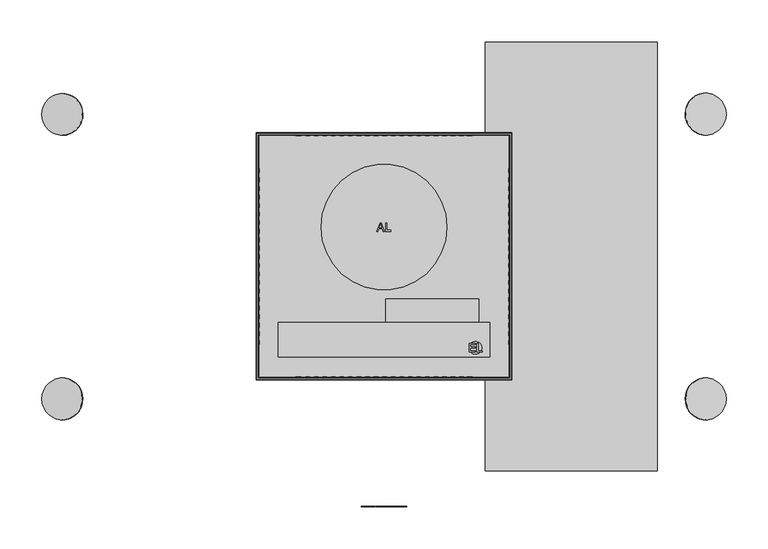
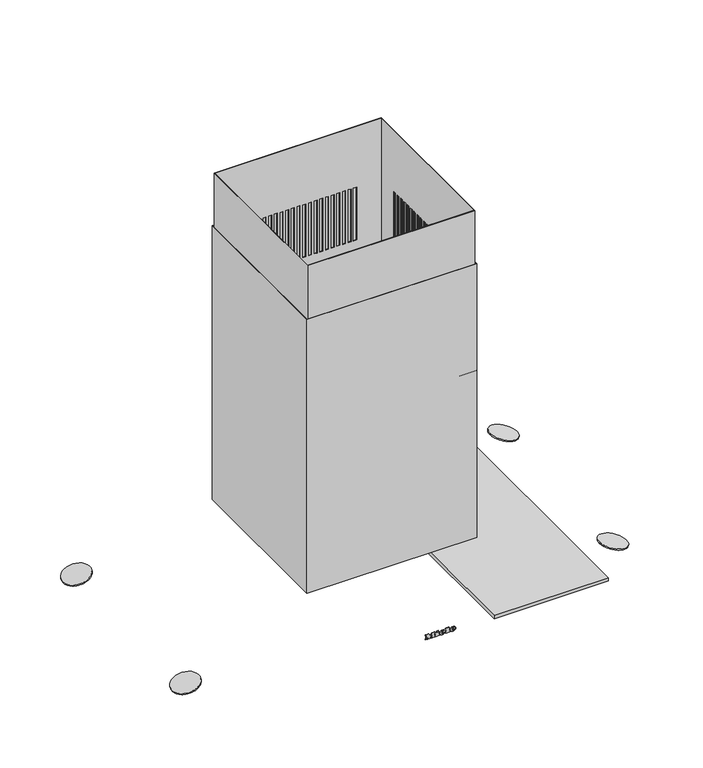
"""IFC4 building model written with IfcOpenShell, lengths in millimetres: proxy geometry, 10861910_F_DA6698D_EDST : 28669855_F_10861910_DA6698D_EDST."""

from ifc_helpers import new_model, si_unit, point, frame, frame_2d, origin, place, context, project, spatial, polyline, circle_curve, ellipse_curve, trimmed, segment, composite_curve, outline, extrude, faceted_brep, source, transform, mapped, element, save
from ifc_brep_helpers import plane_surface, cylinder_surface, revolved_surface, extruded_surface, advanced_brep


def specialty_equipment_54c93880(model_context):
    return source(origin(), model_context, "Body", "SolidModel", [
        advanced_brep(
        [(21.38, -299.0, 47.133), (21.38, -299.0, 48.042), (27.401, -299.0, 48.042), (16.925, -299.0, 48.042), (19.4, -299.0, 45.0), (27.248, -299.0, 47.133), (24.53, -299.0, 47.133), (22.388, -299.0, 46.125), (21.38, -299.0, 49.194), (21.38, -299.0, 50.175), (22.919, -299.0, 50.175), (22.919, -299.0, 49.194), (21.38, -298.0, 47.133), (22.388, -298.0, 46.125), (24.53, -298.0, 47.133), (27.248, -298.0, 47.133), (19.4, -298.0, 45.0), (16.925, -298.0, 48.042), (27.401, -298.0, 48.042), (21.38, -298.0, 48.042), (21.38, -298.0, 49.194), (22.919, -298.0, 49.194), (22.919, -298.0, 50.175), (21.38, -298.0, 50.175)],
        [
            (0, 1),
            (1, 2),
            (2, 3, ellipse_curve(frame((22.163, -299.0, 48.042), z_axis=(0.0, -1.0, 0.0), x_axis=(-1.0, 0.0, 0.0)), 5.238, 4.329)),
            (3, 4, circle_curve(frame((20.4080491, -299.0, 48.348), z_axis=(0.0, -1.0, 0.0), x_axis=(0.0, 0.0, -1.0)), 3.4964649)),
            (4, 5, circle_curve(frame((22.0581428, -299.0, 50.724), z_axis=(0.0, -1.0, 0.0), x_axis=(0.0, 0.0, -1.0)), 6.3110933)),
            (5, 6),
            (6, 7, circle_curve(frame((22.8279412, -299.0, 47.97), z_axis=(0.0, 1.0, 0.0), x_axis=(0.0, 0.0, -1.0)), 1.896727)),
            (7, 0, circle_curve(frame((22.388, -299.0, 47.133), z_axis=(0.0, 1.0, 0.0), x_axis=(0.0, 0.0, -1.0)), 1.008)),
            (8, 9),
            (9, 10, circle_curve(frame((22.1495, -299.0, 50.175), z_axis=(0.0, 1.0, 0.0), x_axis=(0.0, 0.0, -1.0)), 0.7695)),
            (10, 11),
            (11, 8),
            (12, 13, circle_curve(frame((22.388, -298.0, 47.133), z_axis=(0.0, -1.0, 0.0), x_axis=(0.0, 0.0, -1.0)), 1.008)),
            (13, 14, circle_curve(frame((22.8279412, -298.0, 47.97), z_axis=(0.0, -1.0, 0.0), x_axis=(0.0, 0.0, -1.0)), 1.896727)),
            (14, 15),
            (15, 16, circle_curve(frame((22.0581428, -298.0, 50.724), z_axis=(0.0, 1.0, 0.0), x_axis=(0.0, 0.0, -1.0)), 6.3110933)),
            (16, 17, circle_curve(frame((20.4080491, -298.0, 48.348), z_axis=(0.0, 1.0, 0.0), x_axis=(0.0, 0.0, -1.0)), 3.4964649)),
            (17, 18, ellipse_curve(frame((22.163, -298.0, 48.042), z_axis=(0.0, 1.0, 0.0), x_axis=(-1.0, 0.0, 0.0)), 5.238, 4.329)),
            (18, 19),
            (19, 12),
            (20, 21),
            (21, 22),
            (22, 23, circle_curve(frame((22.1495, -298.0, 50.175), z_axis=(0.0, -1.0, 0.0), x_axis=(0.0, 0.0, -1.0)), 0.7695)),
            (23, 20),
            (0, 12),
            (19, 1),
            (18, 2),
            (5, 15),
            (14, 6),
            (17, 3),
            (13, 7),
            (16, 4),
            (8, 20),
            (23, 9),
            (22, 10),
            (21, 11),
        ],
        [
            plane_surface(frame((21.38, -299.0, 48.042), z_axis=(0.0, -1.0, 0.0), x_axis=(0.0, 0.0, 1.0))),
            plane_surface(frame((21.38, -298.0, 48.042), z_axis=(0.0, 1.0, 0.0), x_axis=(0.0, 0.0, -1.0))),
            plane_surface(frame((21.38, -299.0, 47.133), z_axis=(1.0, 0.0, 0.0), x_axis=(0.0, 1.0, 0.0))),
            plane_surface(frame((21.38, -299.0, 48.042), z_axis=(0.0, 0.0, -1.0), x_axis=(0.0, 1.0, 0.0))),
            plane_surface(frame((27.248, -299.0, 47.133), z_axis=(0.0, 0.0, 1.0), x_axis=(0.0, 1.0, 0.0))),
            extruded_surface(trimmed(ellipse_curve(frame((22.163, -297.0, 48.042), z_axis=(0.0, -1.0, 0.0), x_axis=(-1.0, 0.0, 0.0)), 5.238, 4.329), [point((27.401, -297.0, 48.042))], [point((16.925, -297.0, 48.042))], True, "CARTESIAN"), (0.0, -1.0, 0.0), 1.0),
            revolved_surface(polyline([(22.8279412, -298.0, 46.073273), (22.8279412, -299.0, 46.073273)]), (22.8279412, -298.0, 47.97), (0.0, 1.0, 0.0)),
            revolved_surface(polyline([(22.388, -298.0, 46.125), (22.388, -299.0, 46.125)]), (22.388, -298.0, 47.133), (0.0, 1.0, 0.0)),
            cylinder_surface(frame((20.4080491, -298.0, 48.348), z_axis=(0.0, -1.0, 0.0), x_axis=(0.0, 0.0, -1.0)), 3.4964649),
            cylinder_surface(frame((22.0581428, -298.0, 50.724), z_axis=(0.0, -1.0, 0.0), x_axis=(0.0, 0.0, -1.0)), 6.3110933),
            plane_surface(frame((21.38, -299.0, 49.194), z_axis=(1.0, 0.0, 0.0), x_axis=(0.0, 1.0, 0.0))),
            revolved_surface(polyline([(22.1495, -298.0, 49.405499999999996), (22.1495, -299.0, 49.405499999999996)]), (22.1495, -298.0, 50.175), (0.0, 1.0, 0.0)),
            plane_surface(frame((22.919, -299.0, 50.175), z_axis=(-1.0, 0.0, 0.0), x_axis=(0.0, 1.0, 0.0))),
            plane_surface(frame((22.919, -299.0, 49.194), z_axis=(0.0, 0.0, 1.0), x_axis=(0.0, 1.0, 0.0))),
        ],
        [
            (0, [[1, 2, 3, 4, 5, 6, 7, 8], [9, 10, 11, 12]]),
            (1, [[13, 14, 15, 16, 17, 18, 19, 20], [21, 22, 23, 24]]),
            (2, [[-1, 25, -20, 26]]),
            (3, [[-2, -26, -19, 27]]),
            (4, [[-6, 28, -15, 29]]),
            (5, [[-3, -27, -18, 30]]),
            (6, [[-7, -29, -14, 31]]),
            (7, [[-8, -31, -13, -25]]),
            (8, [[-4, -30, -17, 32]]),
            (9, [[-5, -32, -16, -28]]),
            (10, [[-9, 33, -24, 34]]),
            (11, [[-10, -34, -23, 35]]),
            (12, [[-11, -35, -22, 36]]),
            (13, [[-12, -36, -21, -33]]),
        ],
    ),
        advanced_brep(
        [(2.597, -299.0, 47.133), (2.597, -299.0, 48.042), (8.618, -299.0, 48.042), (-1.858, -299.0, 48.042), (0.617, -299.0, 45.0), (8.465, -299.0, 47.133), (5.747, -299.0, 47.133), (3.605, -299.0, 46.125), (2.597, -299.0, 49.194), (2.597, -299.0, 50.175), (4.136, -299.0, 50.175), (4.136, -299.0, 49.194), (2.597, -298.0, 47.133), (3.605, -298.0, 46.125), (5.747, -298.0, 47.133), (8.465, -298.0, 47.133), (0.617, -298.0, 45.0), (-1.858, -298.0, 48.042), (8.618, -298.0, 48.042), (2.597, -298.0, 48.042), (2.597, -298.0, 49.194), (4.136, -298.0, 49.194), (4.136, -298.0, 50.175), (2.597, -298.0, 50.175)],
        [
            (0, 1),
            (1, 2),
            (2, 3, ellipse_curve(frame((3.38, -299.0, 48.042), z_axis=(0.0, -1.0, 0.0), x_axis=(-1.0, 0.0, 0.0)), 5.238, 4.329)),
            (3, 4, circle_curve(frame((1.6250491, -299.0, 48.348), z_axis=(0.0, -1.0, 0.0), x_axis=(0.0, 0.0, -1.0)), 3.4964649)),
            (4, 5, circle_curve(frame((3.2751428, -299.0, 50.724), z_axis=(0.0, -1.0, 0.0), x_axis=(0.0, 0.0, -1.0)), 6.3110933)),
            (5, 6),
            (6, 7, circle_curve(frame((4.0449412, -299.0, 47.97), z_axis=(0.0, 1.0, 0.0), x_axis=(0.0, 0.0, -1.0)), 1.896727)),
            (7, 0, circle_curve(frame((3.605, -299.0, 47.133), z_axis=(0.0, 1.0, 0.0), x_axis=(0.0, 0.0, -1.0)), 1.008)),
            (8, 9),
            (9, 10, circle_curve(frame((3.3665, -299.0, 50.175), z_axis=(0.0, 1.0, 0.0), x_axis=(0.0, 0.0, -1.0)), 0.7695)),
            (10, 11),
            (11, 8),
            (12, 13, circle_curve(frame((3.605, -298.0, 47.133), z_axis=(0.0, -1.0, 0.0), x_axis=(0.0, 0.0, -1.0)), 1.008)),
            (13, 14, circle_curve(frame((4.0449412, -298.0, 47.97), z_axis=(0.0, -1.0, 0.0), x_axis=(0.0, 0.0, -1.0)), 1.896727)),
            (14, 15),
            (15, 16, circle_curve(frame((3.2751428, -298.0, 50.724), z_axis=(0.0, 1.0, 0.0), x_axis=(0.0, 0.0, -1.0)), 6.3110933)),
            (16, 17, circle_curve(frame((1.6250491, -298.0, 48.348), z_axis=(0.0, 1.0, 0.0), x_axis=(0.0, 0.0, -1.0)), 3.4964649)),
            (17, 18, ellipse_curve(frame((3.38, -298.0, 48.042), z_axis=(0.0, 1.0, 0.0), x_axis=(-1.0, 0.0, 0.0)), 5.238, 4.329)),
            (18, 19),
            (19, 12),
            (20, 21),
            (21, 22),
            (22, 23, circle_curve(frame((3.3665, -298.0, 50.175), z_axis=(0.0, -1.0, 0.0), x_axis=(0.0, 0.0, -1.0)), 0.7695)),
            (23, 20),
            (0, 12),
            (19, 1),
            (18, 2),
            (5, 15),
            (14, 6),
            (17, 3),
            (13, 7),
            (16, 4),
            (8, 20),
            (23, 9),
            (22, 10),
            (21, 11),
        ],
        [
            plane_surface(frame((2.597, -299.0, 48.042), z_axis=(0.0, -1.0, 0.0), x_axis=(0.0, 0.0, 1.0))),
            plane_surface(frame((2.597, -298.0, 48.042), z_axis=(0.0, 1.0, 0.0), x_axis=(0.0, 0.0, -1.0))),
            plane_surface(frame((2.597, -299.0, 47.133), z_axis=(1.0, 0.0, 0.0), x_axis=(0.0, 1.0, 0.0))),
            plane_surface(frame((2.597, -299.0, 48.042), z_axis=(0.0, 0.0, -1.0), x_axis=(0.0, 1.0, 0.0))),
            plane_surface(frame((8.465, -299.0, 47.133), z_axis=(0.0, 0.0, 1.0), x_axis=(0.0, 1.0, 0.0))),
            extruded_surface(trimmed(ellipse_curve(frame((3.38, -297.0, 48.042), z_axis=(0.0, -1.0, 0.0), x_axis=(-1.0, 0.0, 0.0)), 5.238, 4.329), [point((8.618, -297.0, 48.042))], [point((-1.858, -297.0, 48.042))], True, "CARTESIAN"), (0.0, -1.0, 0.0), 1.0),
            revolved_surface(polyline([(4.0449412, -298.0, 46.073273), (4.0449412, -299.0, 46.073273)]), (4.0449412, -298.0, 47.97), (0.0, 1.0, 0.0)),
            revolved_surface(polyline([(3.605, -298.0, 46.125), (3.605, -299.0, 46.125)]), (3.605, -298.0, 47.133), (0.0, 1.0, 0.0)),
            cylinder_surface(frame((1.6250491, -298.0, 48.348), z_axis=(0.0, -1.0, 0.0), x_axis=(0.0, 0.0, -1.0)), 3.4964649),
            cylinder_surface(frame((3.2751428, -298.0, 50.724), z_axis=(0.0, -1.0, 0.0), x_axis=(0.0, 0.0, -1.0)), 6.3110933),
            plane_surface(frame((2.597, -299.0, 49.194), z_axis=(1.0, 0.0, 0.0), x_axis=(0.0, 1.0, 0.0))),
            revolved_surface(polyline([(3.3665, -298.0, 49.405499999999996), (3.3665, -299.0, 49.405499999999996)]), (3.3665, -298.0, 50.175), (0.0, 1.0, 0.0)),
            plane_surface(frame((4.136, -299.0, 50.175), z_axis=(-1.0, 0.0, 0.0), x_axis=(0.0, 1.0, 0.0))),
            plane_surface(frame((4.136, -299.0, 49.194), z_axis=(0.0, 0.0, 1.0), x_axis=(0.0, 1.0, 0.0))),
        ],
        [
            (0, [[1, 2, 3, 4, 5, 6, 7, 8], [9, 10, 11, 12]]),
            (1, [[13, 14, 15, 16, 17, 18, 19, 20], [21, 22, 23, 24]]),
            (2, [[-1, 25, -20, 26]]),
            (3, [[-2, -26, -19, 27]]),
            (4, [[-6, 28, -15, 29]]),
            (5, [[-3, -27, -18, 30]]),
            (6, [[-7, -29, -14, 31]]),
            (7, [[-8, -31, -13, -25]]),
            (8, [[-4, -30, -17, 32]]),
            (9, [[-5, -32, -16, -28]]),
            (10, [[-9, 33, -24, 34]]),
            (11, [[-10, -34, -23, 35]]),
            (12, [[-11, -35, -22, 36]]),
            (13, [[-12, -36, -21, -33]]),
        ],
    ),
        extrude(outline(polyline([(53.469, -7.24), (52.011, -6.556), (53.433, -3.505), (54.891, -4.18), (53.469, -7.24)])), frame((0.0, -299.0, 0.0), z_axis=(0.0, 1.0, 0.0), x_axis=(0.0, 0.0, 1.0)), (0.0, 0.0, 1.0), 1.0),
        extrude(outline(polyline([(51.813, -9.463), (50.202, -9.463), (50.202, -8.392), (46.512, -8.392), (46.512, -9.463), (45.0, -9.463), (45.0, -2.362), (46.512, -2.362), (46.512, -3.406), (51.813, -3.406), (51.813, -9.463)])), frame((0.0, -299.0, 0.0), z_axis=(0.0, 1.0, 0.0), x_axis=(0.0, 0.0, 1.0)), (0.0, 0.0, 1.0), 1.0),
        extrude(outline(polyline([(52.533, 9.122), (52.533, 10.202), (46.512, 10.202), (46.512, 9.122), (45.0, 9.122), (45.0, 16.421), (46.512, 16.421), (46.512, 15.314), (54.0, 15.314), (54.0, 9.122), (52.533, 9.122)])), frame((0.0, -299.0, 0.0), z_axis=(0.0, 1.0, 0.0), x_axis=(0.0, 0.0, 1.0)), (0.0, 0.0, 1.0), 1.0),
        extrude(outline(polyline([(52.533, -27.4), (52.533, -26.311), (46.512, -26.311), (46.512, -27.4), (45.0, -27.4), (45.0, -23.44), (46.512, -23.44), (46.512, -24.52), (50.3341247, -24.52), (45.0, -20.497), (50.4402223, -16.456), (46.512, -16.456), (46.512, -17.563), (45.0, -17.563), (45.0, -10.381), (46.512, -10.381), (46.512, -11.524), (52.533, -11.524), (52.533, -10.381), (54.0, -10.381), (54.0, -15.862), (50.625, -18.49), (54.0, -21.127), (54.0, -27.4), (52.533, -27.4)])), frame((0.0, -299.0, 0.0), z_axis=(0.0, 1.0, 0.0), x_axis=(0.0, 0.0, 1.0)), (0.0, 0.0, 1.0), 1.0),
        extrude(outline(polyline([(113.0, -51.0), (113.0, -79.0), (2.0, -79.0), (2.0, -51.0), (113.0, -51.0)])), frame((0.0, 0.0, 416.0), z_axis=(0.0, 0.0, 1.0), x_axis=(1.0, 0.0, 0.0)), (0.0, 0.0, 1.0), 38.0),
        extrude(outline(polyline([(126.0, -79.0), (126.0, -120.0), (-126.0, -120.0), (-126.0, -79.0), (126.0, -79.0)])), frame((0.0, 0.0, 402.0), z_axis=(0.0, 0.0, 1.0), x_axis=(1.0, 0.0, 0.0)), (0.0, 0.0, 1.0), 121.0),
        faceted_brep([(-150.0, -145.0, 705.0), (150.0, -145.0, 705.0), (150.0, 145.0, 705.0), (-150.0, 145.0, 705.0), (-149.0, -144.0, 705.0), (-149.0, 144.0, 705.0), (149.0, 144.0, 705.0), (149.0, -144.0, 705.0), (-150.0, -145.0, 445.0), (-150.0, 145.0, 445.0), (150.0, 145.0, 445.0), (150.0, -145.0, 445.0), (-149.0, -144.0, 445.0), (149.0, -144.0, 445.0), (149.0, 144.0, 445.0), (-149.0, 144.0, 445.0), (-105.0, -145.0, 590.0), (-98.8, -145.0, 590.0), (-98.8, -145.0, 490.0), (-105.0, -145.0, 490.0), (98.8, -145.0, 590.0), (105.0, -145.0, 590.0), (105.0, -145.0, 490.0), (98.8, -145.0, 490.0), (-93.6, -145.0, 590.0), (-88.6, -145.0, 590.0), (-88.6, -145.0, 490.0), (-93.6, -145.0, 490.0), (-83.4, -145.0, 590.0), (-78.4, -145.0, 590.0), (-78.4, -145.0, 490.0), (-83.4, -145.0, 490.0), (-73.2, -145.0, 590.0), (-68.2, -145.0, 590.0), (-68.2, -145.0, 490.0), (-73.2, -145.0, 490.0), (-63.0, -145.0, 590.0), (-58.0, -145.0, 590.0), (-58.0, -145.0, 490.0), (-63.0, -145.0, 490.0), (-52.8, -145.0, 590.0), (-47.8, -145.0, 590.0), (-47.8, -145.0, 490.0), (-52.8, -145.0, 490.0), (-42.6, -145.0, 590.0), (-37.6, -145.0, 590.0), (-37.6, -145.0, 490.0), (-42.6, -145.0, 490.0), (-32.4, -145.0, 590.0), (-27.4, -145.0, 590.0), (-27.4, -145.0, 490.0), (-32.4, -145.0, 490.0), (-22.2, -145.0, 590.0), (-17.2, -145.0, 590.0), (-17.2, -145.0, 490.0), (-22.2, -145.0, 490.0), (-12.0, -145.0, 590.0), (-7.0, -145.0, 590.0), (-7.0, -145.0, 490.0), (-12.0, -145.0, 490.0), (-1.8, -145.0, 590.0), (3.2, -145.0, 590.0), (3.2, -145.0, 490.0), (-1.8, -145.0, 490.0), (8.4, -145.0, 590.0), (13.4, -145.0, 590.0), (13.4, -145.0, 490.0), (8.4, -145.0, 490.0), (18.6, -145.0, 590.0), (23.6, -145.0, 590.0), (23.6, -145.0, 490.0), (18.6, -145.0, 490.0), (28.8, -145.0, 590.0), (33.8, -145.0, 590.0), (33.8, -145.0, 490.0), (28.8, -145.0, 490.0), (39.0, -145.0, 590.0), (44.0, -145.0, 590.0), (44.0, -145.0, 490.0), (39.0, -145.0, 490.0), (49.2, -145.0, 590.0), (54.2, -145.0, 590.0), (54.2, -145.0, 490.0), (49.2, -145.0, 490.0), (59.4, -145.0, 590.0), (64.4, -145.0, 590.0), (64.4, -145.0, 490.0), (59.4, -145.0, 490.0), (69.6, -145.0, 590.0), (74.6, -145.0, 590.0), (74.6, -145.0, 490.0), (69.6, -145.0, 490.0), (79.8, -145.0, 590.0), (84.8, -145.0, 590.0), (84.8, -145.0, 490.0), (79.8, -145.0, 490.0), (90.0, -145.0, 590.0), (95.0, -145.0, 590.0), (95.0, -145.0, 490.0), (90.0, -145.0, 490.0), (150.0, -105.0, 590.0), (150.0, -100.0, 590.0), (150.0, -100.0, 490.0), (150.0, -105.0, 490.0), (150.0, -94.8, 590.0), (150.0, -89.8, 590.0), (150.0, -89.8, 490.0), (150.0, -94.8, 490.0), (150.0, -84.6, 590.0), (150.0, -79.6, 590.0), (150.0, -79.6, 490.0), (150.0, -84.6, 490.0), (150.0, -74.4, 590.0), (150.0, -69.4, 590.0), (150.0, -69.4, 490.0), (150.0, -74.4, 490.0), (150.0, -64.2, 590.0), (150.0, -59.2, 590.0), (150.0, -59.2, 490.0), (150.0, -64.2, 490.0), (150.0, -54.0, 590.0), (150.0, -49.0, 590.0), (150.0, -49.0, 490.0), (150.0, -54.0, 490.0), (150.0, -43.8, 590.0), (150.0, -38.8, 590.0), (150.0, -38.8, 490.0), (150.0, -43.8, 490.0), (150.0, -33.6, 590.0), (150.0, -28.6, 590.0), (150.0, -28.6, 490.0), (150.0, -33.6, 490.0), (150.0, -23.4, 590.0), (150.0, -18.4, 590.0), (150.0, -18.4, 490.0), (150.0, -23.4, 490.0), (150.0, -13.2, 590.0), (150.0, -8.2, 590.0), (150.0, -8.2, 490.0), (150.0, -13.2, 490.0), (150.0, -3.0, 590.0), (150.0, 2.0, 590.0), (150.0, 2.0, 490.0), (150.0, -3.0, 490.0), (150.0, 7.2, 590.0), (150.0, 12.2, 590.0), (150.0, 12.2, 490.0), (150.0, 7.2, 490.0), (150.0, 17.4, 590.0), (150.0, 22.4, 590.0), (150.0, 22.4, 490.0), (150.0, 17.4, 490.0), (150.0, 27.6, 590.0), (150.0, 32.6, 590.0), (150.0, 32.6, 490.0), (150.0, 27.6, 490.0), (150.0, 37.8, 590.0), (150.0, 42.8, 590.0), (150.0, 42.8, 490.0), (150.0, 37.8, 490.0), (150.0, 48.0, 590.0), (150.0, 53.0, 590.0), (150.0, 53.0, 490.0), (150.0, 48.0, 490.0), (150.0, 58.2, 590.0), (150.0, 63.2, 590.0), (150.0, 63.2, 490.0), (150.0, 58.2, 490.0), (150.0, 68.4, 590.0), (150.0, 73.4, 590.0), (150.0, 73.4, 490.0), (150.0, 68.4, 490.0), (150.0, 100.0, 590.0), (150.0, 105.0, 590.0), (150.0, 105.0, 490.0), (150.0, 100.0, 490.0), (150.0, 78.6, 590.0), (150.0, 83.6, 590.0), (150.0, 83.6, 490.0), (150.0, 78.6, 490.0), (150.0, 88.8, 590.0), (150.0, 93.8, 590.0), (150.0, 93.8, 490.0), (150.0, 88.8, 490.0), (-98.8, 145.0, 590.0), (-105.0, 145.0, 590.0), (-105.0, 145.0, 490.0), (-98.8, 145.0, 490.0), (105.0, 145.0, 590.0), (98.8, 145.0, 590.0), (98.8, 145.0, 490.0), (105.0, 145.0, 490.0), (-88.6, 145.0, 590.0), (-93.6, 145.0, 590.0), (-93.6, 145.0, 490.0), (-88.6, 145.0, 490.0), (-78.4, 145.0, 590.0), (-83.4, 145.0, 590.0), (-83.4, 145.0, 490.0), (-78.4, 145.0, 490.0), (-68.2, 145.0, 590.0), (-73.2, 145.0, 590.0), (-73.2, 145.0, 490.0), (-68.2, 145.0, 490.0), (-58.0, 145.0, 590.0), (-63.0, 145.0, 590.0), (-63.0, 145.0, 490.0), (-58.0, 145.0, 490.0), (-47.8, 145.0, 590.0), (-52.8, 145.0, 590.0), (-52.8, 145.0, 490.0), (-47.8, 145.0, 490.0), (-37.6, 145.0, 590.0), (-42.6, 145.0, 590.0), (-42.6, 145.0, 490.0), (-37.6, 145.0, 490.0), (-27.4, 145.0, 590.0), (-32.4, 145.0, 590.0), (-32.4, 145.0, 490.0), (-27.4, 145.0, 490.0), (-17.2, 145.0, 590.0), (-22.2, 145.0, 590.0), (-22.2, 145.0, 490.0), (-17.2, 145.0, 490.0), (-7.0, 145.0, 590.0), (-12.0, 145.0, 590.0), (-12.0, 145.0, 490.0), (-7.0, 145.0, 490.0), (3.2, 145.0, 590.0), (-1.8, 145.0, 590.0), (-1.8, 145.0, 490.0), (3.2, 145.0, 490.0), (13.4, 145.0, 590.0), (8.4, 145.0, 590.0), (8.4, 145.0, 490.0), (13.4, 145.0, 490.0), (23.6, 145.0, 590.0), (18.6, 145.0, 590.0), (18.6, 145.0, 490.0), (23.6, 145.0, 490.0), (33.8, 145.0, 590.0), (28.8, 145.0, 590.0), (28.8, 145.0, 490.0), (33.8, 145.0, 490.0), (44.0, 145.0, 590.0), (39.0, 145.0, 590.0), (39.0, 145.0, 490.0), (44.0, 145.0, 490.0), (54.2, 145.0, 590.0), (49.2, 145.0, 590.0), (49.2, 145.0, 490.0), (54.2, 145.0, 490.0), (64.4, 145.0, 590.0), (59.4, 145.0, 590.0), (59.4, 145.0, 490.0), (64.4, 145.0, 490.0), (74.6, 145.0, 590.0), (69.6, 145.0, 590.0), (69.6, 145.0, 490.0), (74.6, 145.0, 490.0), (84.8, 145.0, 590.0), (79.8, 145.0, 590.0), (79.8, 145.0, 490.0), (84.8, 145.0, 490.0), (95.0, 145.0, 590.0), (90.0, 145.0, 590.0), (90.0, 145.0, 490.0), (95.0, 145.0, 490.0), (-150.0, -100.0, 590.0), (-150.0, -105.0, 590.0), (-150.0, -105.0, 490.0), (-150.0, -100.0, 490.0), (-150.0, -89.8, 590.0), (-150.0, -94.8, 590.0), (-150.0, -94.8, 490.0), (-150.0, -89.8, 490.0), (-150.0, -79.6, 590.0), (-150.0, -84.6, 590.0), (-150.0, -84.6, 490.0), (-150.0, -79.6, 490.0), (-150.0, -69.4, 590.0), (-150.0, -74.4, 590.0), (-150.0, -74.4, 490.0), (-150.0, -69.4, 490.0), (-150.0, -59.2, 590.0), (-150.0, -64.2, 590.0), (-150.0, -64.2, 490.0), (-150.0, -59.2, 490.0), (-150.0, -49.0, 590.0), (-150.0, -54.0, 590.0), (-150.0, -54.0, 490.0), (-150.0, -49.0, 490.0), (-150.0, -38.8, 590.0), (-150.0, -43.8, 590.0), (-150.0, -43.8, 490.0), (-150.0, -38.8, 490.0), (-150.0, -28.6, 590.0), (-150.0, -33.6, 590.0), (-150.0, -33.6, 490.0), (-150.0, -28.6, 490.0), (-150.0, -18.4, 590.0), (-150.0, -23.4, 590.0), (-150.0, -23.4, 490.0), (-150.0, -18.4, 490.0), (-150.0, -8.2, 590.0), (-150.0, -13.2, 590.0), (-150.0, -13.2, 490.0), (-150.0, -8.2, 490.0), (-150.0, 2.0, 590.0), (-150.0, -3.0, 590.0), (-150.0, -3.0, 490.0), (-150.0, 2.0, 490.0), (-150.0, 12.2, 590.0), (-150.0, 7.2, 590.0), (-150.0, 7.2, 490.0), (-150.0, 12.2, 490.0), (-150.0, 22.4, 590.0), (-150.0, 17.4, 590.0), (-150.0, 17.4, 490.0), (-150.0, 22.4, 490.0), (-150.0, 32.6, 590.0), (-150.0, 27.6, 590.0), (-150.0, 27.6, 490.0), (-150.0, 32.6, 490.0), (-150.0, 42.8, 590.0), (-150.0, 37.8, 590.0), (-150.0, 37.8, 490.0), (-150.0, 42.8, 490.0), (-150.0, 53.0, 590.0), (-150.0, 48.0, 590.0), (-150.0, 48.0, 490.0), (-150.0, 53.0, 490.0), (-150.0, 63.2, 590.0), (-150.0, 58.2, 590.0), (-150.0, 58.2, 490.0), (-150.0, 63.2, 490.0), (-150.0, 73.4, 590.0), (-150.0, 68.4, 590.0), (-150.0, 68.4, 490.0), (-150.0, 73.4, 490.0), (-150.0, 105.0, 590.0), (-150.0, 100.0, 590.0), (-150.0, 100.0, 490.0), (-150.0, 105.0, 490.0), (-150.0, 83.6, 590.0), (-150.0, 78.6, 590.0), (-150.0, 78.6, 490.0), (-150.0, 83.6, 490.0), (-150.0, 93.8, 590.0), (-150.0, 88.8, 590.0), (-150.0, 88.8, 490.0), (-150.0, 93.8, 490.0), (-149.0, -105.0, 590.0), (-149.0, -100.0, 590.0), (-149.0, -100.0, 490.0), (-149.0, -105.0, 490.0), (-149.0, -94.8, 590.0), (-149.0, -89.8, 590.0), (-149.0, -89.8, 490.0), (-149.0, -94.8, 490.0), (-149.0, -84.6, 590.0), (-149.0, -79.6, 590.0), (-149.0, -79.6, 490.0), (-149.0, -84.6, 490.0), (-149.0, -74.4, 590.0), (-149.0, -69.4, 590.0), (-149.0, -69.4, 490.0), (-149.0, -74.4, 490.0), (-149.0, -64.2, 590.0), (-149.0, -59.2, 590.0), (-149.0, -59.2, 490.0), (-149.0, -64.2, 490.0), (-149.0, -54.0, 590.0), (-149.0, -49.0, 590.0), (-149.0, -49.0, 490.0), (-149.0, -54.0, 490.0), (-149.0, -43.8, 590.0), (-149.0, -38.8, 590.0), (-149.0, -38.8, 490.0), (-149.0, -43.8, 490.0), (-149.0, -33.6, 590.0), (-149.0, -28.6, 590.0), (-149.0, -28.6, 490.0), (-149.0, -33.6, 490.0), (-149.0, -23.4, 590.0), (-149.0, -18.4, 590.0), (-149.0, -18.4, 490.0), (-149.0, -23.4, 490.0), (-149.0, -13.2, 590.0), (-149.0, -8.2, 590.0), (-149.0, -8.2, 490.0), (-149.0, -13.2, 490.0), (-149.0, -3.0, 590.0), (-149.0, 2.0, 590.0), (-149.0, 2.0, 490.0), (-149.0, -3.0, 490.0), (-149.0, 7.2, 590.0), (-149.0, 12.2, 590.0), (-149.0, 12.2, 490.0), (-149.0, 7.2, 490.0), (-149.0, 17.4, 590.0), (-149.0, 22.4, 590.0), (-149.0, 22.4, 490.0), (-149.0, 17.4, 490.0), (-149.0, 27.6, 590.0), (-149.0, 32.6, 590.0), (-149.0, 32.6, 490.0), (-149.0, 27.6, 490.0), (-149.0, 37.8, 590.0), (-149.0, 42.8, 590.0), (-149.0, 42.8, 490.0), (-149.0, 37.8, 490.0), (-149.0, 48.0, 590.0), (-149.0, 53.0, 590.0), (-149.0, 53.0, 490.0), (-149.0, 48.0, 490.0), (-149.0, 58.2, 590.0), (-149.0, 63.2, 590.0), (-149.0, 63.2, 490.0), (-149.0, 58.2, 490.0), (-149.0, 68.4, 590.0), (-149.0, 73.4, 590.0), (-149.0, 73.4, 490.0), (-149.0, 68.4, 490.0), (-149.0, 100.0, 590.0), (-149.0, 105.0, 590.0), (-149.0, 105.0, 490.0), (-149.0, 100.0, 490.0), (-149.0, 78.6, 590.0), (-149.0, 83.6, 590.0), (-149.0, 83.6, 490.0), (-149.0, 78.6, 490.0), (-149.0, 88.8, 590.0), (-149.0, 93.8, 590.0), (-149.0, 93.8, 490.0), (-149.0, 88.8, 490.0), (-105.0, 144.0, 590.0), (-98.8, 144.0, 590.0), (-98.8, 144.0, 490.0), (-105.0, 144.0, 490.0), (98.8, 144.0, 590.0), (105.0, 144.0, 590.0), (105.0, 144.0, 490.0), (98.8, 144.0, 490.0), (-93.6, 144.0, 590.0), (-88.6, 144.0, 590.0), (-88.6, 144.0, 490.0), (-93.6, 144.0, 490.0), (-83.4, 144.0, 590.0), (-78.4, 144.0, 590.0), (-78.4, 144.0, 490.0), (-83.4, 144.0, 490.0), (-73.2, 144.0, 590.0), (-68.2, 144.0, 590.0), (-68.2, 144.0, 490.0), (-73.2, 144.0, 490.0), (-63.0, 144.0, 590.0), (-58.0, 144.0, 590.0), (-58.0, 144.0, 490.0), (-63.0, 144.0, 490.0), (-52.8, 144.0, 590.0), (-47.8, 144.0, 590.0), (-47.8, 144.0, 490.0), (-52.8, 144.0, 490.0), (-42.6, 144.0, 590.0), (-37.6, 144.0, 590.0), (-37.6, 144.0, 490.0), (-42.6, 144.0, 490.0), (-32.4, 144.0, 590.0), (-27.4, 144.0, 590.0), (-27.4, 144.0, 490.0), (-32.4, 144.0, 490.0), (-22.2, 144.0, 590.0), (-17.2, 144.0, 590.0), (-17.2, 144.0, 490.0), (-22.2, 144.0, 490.0), (-12.0, 144.0, 590.0), (-7.0, 144.0, 590.0), (-7.0, 144.0, 490.0), (-12.0, 144.0, 490.0), (-1.8, 144.0, 590.0), (3.2, 144.0, 590.0), (3.2, 144.0, 490.0), (-1.8, 144.0, 490.0), (8.4, 144.0, 590.0), (13.4, 144.0, 590.0), (13.4, 144.0, 490.0), (8.4, 144.0, 490.0), (18.6, 144.0, 590.0), (23.6, 144.0, 590.0), (23.6, 144.0, 490.0), (18.6, 144.0, 490.0), (28.8, 144.0, 590.0), (33.8, 144.0, 590.0), (33.8, 144.0, 490.0), (28.8, 144.0, 490.0), (39.0, 144.0, 590.0), (44.0, 144.0, 590.0), (44.0, 144.0, 490.0), (39.0, 144.0, 490.0), (49.2, 144.0, 590.0), (54.2, 144.0, 590.0), (54.2, 144.0, 490.0), (49.2, 144.0, 490.0), (59.4, 144.0, 590.0), (64.4, 144.0, 590.0), (64.4, 144.0, 490.0), (59.4, 144.0, 490.0), (69.6, 144.0, 590.0), (74.6, 144.0, 590.0), (74.6, 144.0, 490.0), (69.6, 144.0, 490.0), (79.8, 144.0, 590.0), (84.8, 144.0, 590.0), (84.8, 144.0, 490.0), (79.8, 144.0, 490.0), (90.0, 144.0, 590.0), (95.0, 144.0, 590.0), (95.0, 144.0, 490.0), (90.0, 144.0, 490.0), (149.0, -100.0, 590.0), (149.0, -105.0, 590.0), (149.0, -105.0, 490.0), (149.0, -100.0, 490.0), (149.0, -89.8, 590.0), (149.0, -94.8, 590.0), (149.0, -94.8, 490.0), (149.0, -89.8, 490.0), (149.0, -79.6, 590.0), (149.0, -84.6, 590.0), (149.0, -84.6, 490.0), (149.0, -79.6, 490.0), (149.0, -69.4, 590.0), (149.0, -74.4, 590.0), (149.0, -74.4, 490.0), (149.0, -69.4, 490.0), (149.0, -59.2, 590.0), (149.0, -64.2, 590.0), (149.0, -64.2, 490.0), (149.0, -59.2, 490.0), (149.0, -49.0, 590.0), (149.0, -54.0, 590.0), (149.0, -54.0, 490.0), (149.0, -49.0, 490.0), (149.0, -38.8, 590.0), (149.0, -43.8, 590.0), (149.0, -43.8, 490.0), (149.0, -38.8, 490.0), (149.0, -28.6, 590.0), (149.0, -33.6, 590.0), (149.0, -33.6, 490.0), (149.0, -28.6, 490.0), (149.0, -18.4, 590.0), (149.0, -23.4, 590.0), (149.0, -23.4, 490.0), (149.0, -18.4, 490.0), (149.0, -8.2, 590.0), (149.0, -13.2, 590.0), (149.0, -13.2, 490.0), (149.0, -8.2, 490.0), (149.0, 2.0, 590.0), (149.0, -3.0, 590.0), (149.0, -3.0, 490.0), (149.0, 2.0, 490.0), (149.0, 12.2, 590.0), (149.0, 7.2, 590.0), (149.0, 7.2, 490.0), (149.0, 12.2, 490.0), (149.0, 22.4, 590.0), (149.0, 17.4, 590.0), (149.0, 17.4, 490.0), (149.0, 22.4, 490.0), (149.0, 32.6, 590.0), (149.0, 27.6, 590.0), (149.0, 27.6, 490.0), (149.0, 32.6, 490.0), (149.0, 42.8, 590.0), (149.0, 37.8, 590.0), (149.0, 37.8, 490.0), (149.0, 42.8, 490.0), (149.0, 53.0, 590.0), (149.0, 48.0, 590.0), (149.0, 48.0, 490.0), (149.0, 53.0, 490.0), (149.0, 63.2, 590.0), (149.0, 58.2, 590.0), (149.0, 58.2, 490.0), (149.0, 63.2, 490.0), (149.0, 73.4, 590.0), (149.0, 68.4, 590.0), (149.0, 68.4, 490.0), (149.0, 73.4, 490.0), (149.0, 105.0, 590.0), (149.0, 100.0, 590.0), (149.0, 100.0, 490.0), (149.0, 105.0, 490.0), (149.0, 83.6, 590.0), (149.0, 78.6, 590.0), (149.0, 78.6, 490.0), (149.0, 83.6, 490.0), (149.0, 93.8, 590.0), (149.0, 88.8, 590.0), (149.0, 88.8, 490.0), (149.0, 93.8, 490.0), (-98.8, -144.0, 590.0), (-105.0, -144.0, 590.0), (-105.0, -144.0, 490.0), (-98.8, -144.0, 490.0), (105.0, -144.0, 590.0), (98.8, -144.0, 590.0), (98.8, -144.0, 490.0), (105.0, -144.0, 490.0), (-88.6, -144.0, 590.0), (-93.6, -144.0, 590.0), (-93.6, -144.0, 490.0), (-88.6, -144.0, 490.0), (-78.4, -144.0, 590.0), (-83.4, -144.0, 590.0), (-83.4, -144.0, 490.0), (-78.4, -144.0, 490.0), (-68.2, -144.0, 590.0), (-73.2, -144.0, 590.0), (-73.2, -144.0, 490.0), (-68.2, -144.0, 490.0), (-58.0, -144.0, 590.0), (-63.0, -144.0, 590.0), (-63.0, -144.0, 490.0), (-58.0, -144.0, 490.0), (-47.8, -144.0, 590.0), (-52.8, -144.0, 590.0), (-52.8, -144.0, 490.0), (-47.8, -144.0, 490.0), (-37.6, -144.0, 590.0), (-42.6, -144.0, 590.0), (-42.6, -144.0, 490.0), (-37.6, -144.0, 490.0), (-27.4, -144.0, 590.0), (-32.4, -144.0, 590.0), (-32.4, -144.0, 490.0), (-27.4, -144.0, 490.0), (-17.2, -144.0, 590.0), (-22.2, -144.0, 590.0), (-22.2, -144.0, 490.0), (-17.2, -144.0, 490.0), (-7.0, -144.0, 590.0), (-12.0, -144.0, 590.0), (-12.0, -144.0, 490.0), (-7.0, -144.0, 490.0), (3.2, -144.0, 590.0), (-1.8, -144.0, 590.0), (-1.8, -144.0, 490.0), (3.2, -144.0, 490.0), (13.4, -144.0, 590.0), (8.4, -144.0, 590.0), (8.4, -144.0, 490.0), (13.4, -144.0, 490.0), (23.6, -144.0, 590.0), (18.6, -144.0, 590.0), (18.6, -144.0, 490.0), (23.6, -144.0, 490.0), (33.8, -144.0, 590.0), (28.8, -144.0, 590.0), (28.8, -144.0, 490.0), (33.8, -144.0, 490.0), (44.0, -144.0, 590.0), (39.0, -144.0, 590.0), (39.0, -144.0, 490.0), (44.0, -144.0, 490.0), (54.2, -144.0, 590.0), (49.2, -144.0, 590.0), (49.2, -144.0, 490.0), (54.2, -144.0, 490.0), (64.4, -144.0, 590.0), (59.4, -144.0, 590.0), (59.4, -144.0, 490.0), (64.4, -144.0, 490.0), (74.6, -144.0, 590.0), (69.6, -144.0, 590.0), (69.6, -144.0, 490.0), (74.6, -144.0, 490.0), (84.8, -144.0, 590.0), (79.8, -144.0, 590.0), (79.8, -144.0, 490.0), (84.8, -144.0, 490.0), (95.0, -144.0, 590.0), (90.0, -144.0, 590.0), (90.0, -144.0, 490.0), (95.0, -144.0, 490.0)], [[[0, 1, 2, 3], [4, 5, 6, 7]], [[8, 9, 10, 11], [12, 13, 14, 15]], [[1, 0, 8, 11], [16, 17, 18, 19], [20, 21, 22, 23], [24, 25, 26, 27], [28, 29, 30, 31], [32, 33, 34, 35], [36, 37, 38, 39], [40, 41, 42, 43], [44, 45, 46, 47], [48, 49, 50, 51], [52, 53, 54, 55], [56, 57, 58, 59], [60, 61, 62, 63], [64, 65, 66, 67], [68, 69, 70, 71], [72, 73, 74, 75], [76, 77, 78, 79], [80, 81, 82, 83], [84, 85, 86, 87], [88, 89, 90, 91], [92, 93, 94, 95], [96, 97, 98, 99]], [[2, 1, 11, 10], [100, 101, 102, 103], [104, 105, 106, 107], [108, 109, 110, 111], [112, 113, 114, 115], [116, 117, 118, 119], [120, 121, 122, 123], [124, 125, 126, 127], [128, 129, 130, 131], [132, 133, 134, 135], [136, 137, 138, 139], [140, 141, 142, 143], [144, 145, 146, 147], [148, 149, 150, 151], [152, 153, 154, 155], [156, 157, 158, 159], [160, 161, 162, 163], [164, 165, 166, 167], [168, 169, 170, 171], [172, 173, 174, 175], [176, 177, 178, 179], [180, 181, 182, 183]], [[3, 2, 10, 9], [184, 185, 186, 187], [188, 189, 190, 191], [192, 193, 194, 195], [196, 197, 198, 199], [200, 201, 202, 203], [204, 205, 206, 207], [208, 209, 210, 211], [212, 213, 214, 215], [216, 217, 218, 219], [220, 221, 222, 223], [224, 225, 226, 227], [228, 229, 230, 231], [232, 233, 234, 235], [236, 237, 238, 239], [240, 241, 242, 243], [244, 245, 246, 247], [248, 249, 250, 251], [252, 253, 254, 255], [256, 257, 258, 259], [260, 261, 262, 263], [264, 265, 266, 267]], [[0, 3, 9, 8], [268, 269, 270, 271], [272, 273, 274, 275], [276, 277, 278, 279], [280, 281, 282, 283], [284, 285, 286, 287], [288, 289, 290, 291], [292, 293, 294, 295], [296, 297, 298, 299], [300, 301, 302, 303], [304, 305, 306, 307], [308, 309, 310, 311], [312, 313, 314, 315], [316, 317, 318, 319], [320, 321, 322, 323], [324, 325, 326, 327], [328, 329, 330, 331], [332, 333, 334, 335], [336, 337, 338, 339], [340, 341, 342, 343], [344, 345, 346, 347], [348, 349, 350, 351]], [[5, 4, 12, 15], [352, 353, 354, 355], [356, 357, 358, 359], [360, 361, 362, 363], [364, 365, 366, 367], [368, 369, 370, 371], [372, 373, 374, 375], [376, 377, 378, 379], [380, 381, 382, 383], [384, 385, 386, 387], [388, 389, 390, 391], [392, 393, 394, 395], [396, 397, 398, 399], [400, 401, 402, 403], [404, 405, 406, 407], [408, 409, 410, 411], [412, 413, 414, 415], [416, 417, 418, 419], [420, 421, 422, 423], [424, 425, 426, 427], [428, 429, 430, 431], [432, 433, 434, 435]], [[6, 5, 15, 14], [436, 437, 438, 439], [440, 441, 442, 443], [444, 445, 446, 447], [448, 449, 450, 451], [452, 453, 454, 455], [456, 457, 458, 459], [460, 461, 462, 463], [464, 465, 466, 467], [468, 469, 470, 471], [472, 473, 474, 475], [476, 477, 478, 479], [480, 481, 482, 483], [484, 485, 486, 487], [488, 489, 490, 491], [492, 493, 494, 495], [496, 497, 498, 499], [500, 501, 502, 503], [504, 505, 506, 507], [508, 509, 510, 511], [512, 513, 514, 515], [516, 517, 518, 519]], [[7, 6, 14, 13], [520, 521, 522, 523], [524, 525, 526, 527], [528, 529, 530, 531], [532, 533, 534, 535], [536, 537, 538, 539], [540, 541, 542, 543], [544, 545, 546, 547], [548, 549, 550, 551], [552, 553, 554, 555], [556, 557, 558, 559], [560, 561, 562, 563], [564, 565, 566, 567], [568, 569, 570, 571], [572, 573, 574, 575], [576, 577, 578, 579], [580, 581, 582, 583], [584, 585, 586, 587], [588, 589, 590, 591], [592, 593, 594, 595], [596, 597, 598, 599], [600, 601, 602, 603]], [[4, 7, 13, 12], [604, 605, 606, 607], [608, 609, 610, 611], [612, 613, 614, 615], [616, 617, 618, 619], [620, 621, 622, 623], [624, 625, 626, 627], [628, 629, 630, 631], [632, 633, 634, 635], [636, 637, 638, 639], [640, 641, 642, 643], [644, 645, 646, 647], [648, 649, 650, 651], [652, 653, 654, 655], [656, 657, 658, 659], [660, 661, 662, 663], [664, 665, 666, 667], [668, 669, 670, 671], [672, 673, 674, 675], [676, 677, 678, 679], [680, 681, 682, 683], [684, 685, 686, 687]], [[184, 437, 436, 185]], [[604, 17, 16, 605]], [[185, 436, 439, 186]], [[605, 16, 19, 606]], [[186, 439, 438, 187]], [[606, 19, 18, 607]], [[437, 184, 187, 438]], [[17, 604, 607, 18]], [[188, 441, 440, 189]], [[608, 21, 20, 609]], [[189, 440, 443, 190]], [[609, 20, 23, 610]], [[190, 443, 442, 191]], [[610, 23, 22, 611]], [[441, 188, 191, 442]], [[21, 608, 611, 22]], [[192, 445, 444, 193]], [[612, 25, 24, 613]], [[193, 444, 447, 194]], [[613, 24, 27, 614]], [[194, 447, 446, 195]], [[614, 27, 26, 615]], [[445, 192, 195, 446]], [[25, 612, 615, 26]], [[196, 449, 448, 197]], [[616, 29, 28, 617]], [[197, 448, 451, 198]], [[617, 28, 31, 618]], [[198, 451, 450, 199]], [[618, 31, 30, 619]], [[449, 196, 199, 450]], [[29, 616, 619, 30]], [[200, 453, 452, 201]], [[620, 33, 32, 621]], [[201, 452, 455, 202]], [[621, 32, 35, 622]], [[202, 455, 454, 203]], [[622, 35, 34, 623]], [[453, 200, 203, 454]], [[33, 620, 623, 34]], [[204, 457, 456, 205]], [[624, 37, 36, 625]], [[205, 456, 459, 206]], [[625, 36, 39, 626]], [[206, 459, 458, 207]], [[626, 39, 38, 627]], [[457, 204, 207, 458]], [[37, 624, 627, 38]], [[208, 461, 460, 209]], [[628, 41, 40, 629]], [[209, 460, 463, 210]], [[629, 40, 43, 630]], [[210, 463, 462, 211]], [[630, 43, 42, 631]], [[461, 208, 211, 462]], [[41, 628, 631, 42]], [[212, 465, 464, 213]], [[632, 45, 44, 633]], [[213, 464, 467, 214]], [[633, 44, 47, 634]], [[214, 467, 466, 215]], [[634, 47, 46, 635]], [[465, 212, 215, 466]], [[45, 632, 635, 46]], [[216, 469, 468, 217]], [[636, 49, 48, 637]], [[217, 468, 471, 218]], [[637, 48, 51, 638]], [[218, 471, 470, 219]], [[638, 51, 50, 639]], [[469, 216, 219, 470]], [[49, 636, 639, 50]], [[220, 473, 472, 221]], [[640, 53, 52, 641]], [[221, 472, 475, 222]], [[641, 52, 55, 642]], [[222, 475, 474, 223]], [[642, 55, 54, 643]], [[473, 220, 223, 474]], [[53, 640, 643, 54]], [[224, 477, 476, 225]], [[644, 57, 56, 645]], [[225, 476, 479, 226]], [[645, 56, 59, 646]], [[226, 479, 478, 227]], [[646, 59, 58, 647]], [[477, 224, 227, 478]], [[57, 644, 647, 58]], [[228, 481, 480, 229]], [[648, 61, 60, 649]], [[229, 480, 483, 230]], [[649, 60, 63, 650]], [[230, 483, 482, 231]], [[650, 63, 62, 651]], [[481, 228, 231, 482]], [[61, 648, 651, 62]], [[232, 485, 484, 233]], [[652, 65, 64, 653]], [[233, 484, 487, 234]], [[653, 64, 67, 654]], [[234, 487, 486, 235]], [[654, 67, 66, 655]], [[485, 232, 235, 486]], [[65, 652, 655, 66]], [[236, 489, 488, 237]], [[656, 69, 68, 657]], [[237, 488, 491, 238]], [[657, 68, 71, 658]], [[238, 491, 490, 239]], [[658, 71, 70, 659]], [[489, 236, 239, 490]], [[69, 656, 659, 70]], [[240, 493, 492, 241]], [[660, 73, 72, 661]], [[241, 492, 495, 242]], [[661, 72, 75, 662]], [[242, 495, 494, 243]], [[662, 75, 74, 663]], [[493, 240, 243, 494]], [[73, 660, 663, 74]], [[244, 497, 496, 245]], [[664, 77, 76, 665]], [[245, 496, 499, 246]], [[665, 76, 79, 666]], [[246, 499, 498, 247]], [[666, 79, 78, 667]], [[497, 244, 247, 498]], [[77, 664, 667, 78]], [[248, 501, 500, 249]], [[668, 81, 80, 669]], [[249, 500, 503, 250]], [[669, 80, 83, 670]], [[250, 503, 502, 251]], [[670, 83, 82, 671]], [[501, 248, 251, 502]], [[81, 668, 671, 82]], [[252, 505, 504, 253]], [[672, 85, 84, 673]], [[253, 504, 507, 254]], [[673, 84, 87, 674]], [[254, 507, 506, 255]], [[674, 87, 86, 675]], [[505, 252, 255, 506]], [[85, 672, 675, 86]], [[256, 509, 508, 257]], [[676, 89, 88, 677]], [[257, 508, 511, 258]], [[677, 88, 91, 678]], [[258, 511, 510, 259]], [[678, 91, 90, 679]], [[509, 256, 259, 510]], [[89, 676, 679, 90]], [[260, 513, 512, 261]], [[680, 93, 92, 681]], [[261, 512, 515, 262]], [[681, 92, 95, 682]], [[262, 515, 514, 263]], [[682, 95, 94, 683]], [[513, 260, 263, 514]], [[93, 680, 683, 94]], [[268, 353, 352, 269]], [[520, 101, 100, 521]], [[269, 352, 355, 270]], [[521, 100, 103, 522]], [[270, 355, 354, 271]], [[522, 103, 102, 523]], [[353, 268, 271, 354]], [[101, 520, 523, 102]], [[272, 357, 356, 273]], [[524, 105, 104, 525]], [[273, 356, 359, 274]], [[525, 104, 107, 526]], [[274, 359, 358, 275]], [[526, 107, 106, 527]], [[357, 272, 275, 358]], [[105, 524, 527, 106]], [[276, 361, 360, 277]], [[528, 109, 108, 529]], [[277, 360, 363, 278]], [[529, 108, 111, 530]], [[278, 363, 362, 279]], [[530, 111, 110, 531]], [[361, 276, 279, 362]], [[109, 528, 531, 110]], [[280, 365, 364, 281]], [[532, 113, 112, 533]], [[281, 364, 367, 282]], [[533, 112, 115, 534]], [[282, 367, 366, 283]], [[534, 115, 114, 535]], [[365, 280, 283, 366]], [[113, 532, 535, 114]], [[284, 369, 368, 285]], [[536, 117, 116, 537]], [[285, 368, 371, 286]], [[537, 116, 119, 538]], [[286, 371, 370, 287]], [[538, 119, 118, 539]], [[369, 284, 287, 370]], [[117, 536, 539, 118]], [[288, 373, 372, 289]], [[540, 121, 120, 541]], [[289, 372, 375, 290]], [[541, 120, 123, 542]], [[290, 375, 374, 291]], [[542, 123, 122, 543]], [[373, 288, 291, 374]], [[121, 540, 543, 122]], [[292, 377, 376, 293]], [[544, 125, 124, 545]], [[293, 376, 379, 294]], [[545, 124, 127, 546]], [[294, 379, 378, 295]], [[546, 127, 126, 547]], [[377, 292, 295, 378]], [[125, 544, 547, 126]], [[296, 381, 380, 297]], [[548, 129, 128, 549]], [[297, 380, 383, 298]], [[549, 128, 131, 550]], [[298, 383, 382, 299]], [[550, 131, 130, 551]], [[381, 296, 299, 382]], [[129, 548, 551, 130]], [[300, 385, 384, 301]], [[552, 133, 132, 553]], [[301, 384, 387, 302]], [[553, 132, 135, 554]], [[302, 387, 386, 303]], [[554, 135, 134, 555]], [[385, 300, 303, 386]], [[133, 552, 555, 134]], [[304, 389, 388, 305]], [[556, 137, 136, 557]], [[305, 388, 391, 306]], [[557, 136, 139, 558]], [[306, 391, 390, 307]], [[558, 139, 138, 559]], [[389, 304, 307, 390]], [[137, 556, 559, 138]], [[308, 393, 392, 309]], [[560, 141, 140, 561]], [[309, 392, 395, 310]], [[561, 140, 143, 562]], [[310, 395, 394, 311]], [[562, 143, 142, 563]], [[393, 308, 311, 394]], [[141, 560, 563, 142]], [[312, 397, 396, 313]], [[564, 145, 144, 565]], [[313, 396, 399, 314]], [[565, 144, 147, 566]], [[314, 399, 398, 315]], [[566, 147, 146, 567]], [[397, 312, 315, 398]], [[145, 564, 567, 146]], [[316, 401, 400, 317]], [[568, 149, 148, 569]], [[317, 400, 403, 318]], [[569, 148, 151, 570]], [[318, 403, 402, 319]], [[570, 151, 150, 571]], [[401, 316, 319, 402]], [[149, 568, 571, 150]], [[320, 405, 404, 321]], [[572, 153, 152, 573]], [[321, 404, 407, 322]], [[573, 152, 155, 574]], [[322, 407, 406, 323]], [[574, 155, 154, 575]], [[405, 320, 323, 406]], [[153, 572, 575, 154]], [[324, 409, 408, 325]], [[576, 157, 156, 577]], [[325, 408, 411, 326]], [[577, 156, 159, 578]], [[326, 411, 410, 327]], [[578, 159, 158, 579]], [[409, 324, 327, 410]], [[157, 576, 579, 158]], [[328, 413, 412, 329]], [[580, 161, 160, 581]], [[329, 412, 415, 330]], [[581, 160, 163, 582]], [[330, 415, 414, 331]], [[582, 163, 162, 583]], [[413, 328, 331, 414]], [[161, 580, 583, 162]], [[332, 417, 416, 333]], [[584, 165, 164, 585]], [[333, 416, 419, 334]], [[585, 164, 167, 586]], [[334, 419, 418, 335]], [[586, 167, 166, 587]], [[417, 332, 335, 418]], [[165, 584, 587, 166]], [[336, 421, 420, 337]], [[588, 169, 168, 589]], [[337, 420, 423, 338]], [[589, 168, 171, 590]], [[338, 423, 422, 339]], [[590, 171, 170, 591]], [[421, 336, 339, 422]], [[169, 588, 591, 170]], [[340, 425, 424, 341]], [[592, 173, 172, 593]], [[341, 424, 427, 342]], [[593, 172, 175, 594]], [[342, 427, 426, 343]], [[594, 175, 174, 595]], [[425, 340, 343, 426]], [[173, 592, 595, 174]], [[344, 429, 428, 345]], [[596, 177, 176, 597]], [[345, 428, 431, 346]], [[597, 176, 179, 598]], [[346, 431, 430, 347]], [[598, 179, 178, 599]], [[429, 344, 347, 430]], [[177, 596, 599, 178]], [[264, 517, 516, 265]], [[684, 97, 96, 685]], [[265, 516, 519, 266]], [[685, 96, 99, 686]], [[266, 519, 518, 267]], [[686, 99, 98, 687]], [[517, 264, 267, 518]], [[97, 684, 687, 98]], [[348, 433, 432, 349]], [[600, 181, 180, 601]], [[349, 432, 435, 350]], [[601, 180, 183, 602]], [[350, 435, 434, 351]], [[602, 183, 182, 603]], [[433, 348, 351, 434]], [[181, 600, 603, 182]]]),
        extrude(outline(polyline([(108.8399725, -103.9570894), (108.8399725, -105.2139001), (102.8756031, -105.2139001), (102.8756031, -108.1897758), (108.5284584, -108.1897758), (108.5284584, -109.4487425), (102.8756031, -109.4487425), (102.8756031, -112.7435075), (109.0, -112.7435075), (109.0, -114.0), (101.6220766, -114.0), (101.6220766, -103.9570894), (108.8399725, -103.9570894)])), frame((0.0, 0.0, 553.0), z_axis=(0.0, 0.0, 1.0), x_axis=(1.0, 0.0, 0.0)), (0.0, 0.0, 1.0), 1.0),
        extrude(outline(polyline([(110.8791391, -114.0103461), (110.8791391, -103.9424405), (112.1632461, -103.9424405), (112.1632461, -112.7355319), (117.1632461, -112.7355319), (117.1632461, -114.0103461), (110.8791391, -114.0103461)])), frame((0.0, 0.0, 553.0), z_axis=(0.0, 0.0, 1.0), x_axis=(1.0, 0.0, 0.0)), (0.0, 0.0, 1.0), 1.0),
        extrude(outline(composite_curve([segment(trimmed(circle_curve(frame_2d((109.0, -109.0)), 7.5), [point((116.5, -109.0))], [point((101.5, -109.0))], False, "CARTESIAN"), True, "CONTINUOUS"), segment(trimmed(circle_curve(frame_2d((109.0, -109.0)), 7.5), [point((101.5, -109.0))], [point((116.5, -109.0))], False, "CARTESIAN"), True, "CONTINUOUS")], self_intersect=False)), frame((0.0, 0.0, 523.0), z_axis=(0.0, 0.0, 1.0), x_axis=(1.0, 0.0, 0.0)), (0.0, 0.0, 1.0), 30.0),
        extrude(outline(polyline([(-4.5350997, 40.0489049), (-3.4700407, 40.0489049), (0.5410213, 29.9992156), (-0.7850399, 29.9992156), (-1.9280588, 33.1396343), (-6.0802371, 33.1396343), (-7.2257854, 29.9922662), (-8.5532107, 29.9922662), (-4.5350997, 40.0489049)]), holes=[polyline([(-5.6084834, 34.3992974), (-2.4077282, 34.3992974), (-4.0032488, 38.8096432), (-5.6084834, 34.3992974)])]), frame((0.0, 0.0, 432.0), z_axis=(0.0, 0.0, 1.0), x_axis=(1.0, 0.0, 0.0)), (0.0, 0.0, 1.0), 1.0),
        extrude(outline(polyline([(1.8797901, 29.9945337), (1.8797901, 40.048168), (3.1713586, 40.048168), (3.1713586, 31.2540464), (8.1713586, 31.2540464), (8.1713586, 29.9945337), (1.8797901, 29.9945337)])), frame((0.0, 0.0, 432.0), z_axis=(0.0, 0.0, 1.0), x_axis=(1.0, 0.0, 0.0)), (0.0, 0.0, 1.0), 1.0),
        extrude(outline(composite_curve([segment(trimmed(circle_curve(frame_2d((0.0, 35.0)), 75.0), [point((75.0, 35.0))], [point((-75.0, 35.0))], False, "CARTESIAN"), True, "CONTINUOUS"), segment(trimmed(circle_curve(frame_2d((0.0, 35.0)), 75.0), [point((-75.0, 35.0))], [point((75.0, 35.0))], False, "CARTESIAN"), True, "CONTINUOUS")], self_intersect=False)), frame((0.0, 0.0, 402.0), z_axis=(0.0, 0.0, 1.0), x_axis=(1.0, 0.0, 0.0)), (0.0, 0.0, 1.0), 30.0),
        extrude(outline(polyline([(151.5, 146.5), (151.5, -146.5), (-151.5, -146.5), (-151.5, 146.5), (151.5, 146.5)])), frame((0.0, 0.0, 401.0), z_axis=(0.0, 0.0, 1.0), x_axis=(1.0, 0.0, 0.0)), (0.0, 0.0, 1.0), 1.0),
        extrude(outline(polyline([(152.5, 147.5), (152.5, -147.5), (-152.5, -147.5), (-152.5, 147.5), (152.5, 147.5)]), holes=[polyline([(151.5, 146.5), (-151.5, 146.5), (-151.5, -146.5), (151.5, -146.5), (151.5, 146.5)])]), frame((0.0, 0.0, 85.0), z_axis=(0.0, 0.0, 1.0), x_axis=(1.0, 0.0, 0.0)), (0.0, 0.0, 1.0), 520.0),
        extrude(outline(composite_curve([segment(trimmed(circle_curve(frame_2d((0.0, -25.0)), 25.0), [point((0.0, -50.0))], [point((0.0, 0.0))], False, "CARTESIAN"), True, "CONTINUOUS"), segment(trimmed(circle_curve(frame_2d((0.0, -25.0)), 25.0), [point((0.0, 0.0))], [point((0.0, -50.0))], False, "CARTESIAN"), True, "CONTINUOUS")], self_intersect=False)), frame((-359.0311447, 169.6006862, 15.2198323), z_axis=(-0.2588190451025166, 0.0, 0.9659258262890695), x_axis=(0.0, -1.0, 0.0)), (0.0, 0.0, 1.0), 2.0),
        extrude(outline(composite_curve([segment(trimmed(circle_curve(frame_2d((0.0, -25.0)), 25.0), [point((0.0, -50.0))], [point((0.0, 0.0))], False, "CARTESIAN"), True, "CONTINUOUS"), segment(trimmed(circle_curve(frame_2d((0.0, -25.0)), 25.0), [point((0.0, 0.0))], [point((0.0, -50.0))], False, "CARTESIAN"), True, "CONTINUOUS")], self_intersect=False)), frame((359.0305951, 170.0, 15.2199795), z_axis=(0.25881904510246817, 0.0, 0.9659258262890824), x_axis=(0.0, 1.0, 0.0)), (0.0, 0.0, 1.0), 2.0),
        extrude(outline(composite_curve([segment(trimmed(circle_curve(frame_2d((0.0, -24.9999999)), 25.0), [point((0.0, -50.0))], [point((0.0, 0.0))], False, "CARTESIAN"), True, "CONTINUOUS"), segment(trimmed(circle_curve(frame_2d((0.0, -24.9999999)), 25.0), [point((0.0, 0.0))], [point((0.0, -50.0))], False, "CARTESIAN"), True, "CONTINUOUS")], self_intersect=False)), frame((359.067388, -170.0, 15.2101209), z_axis=(0.25881904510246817, 0.0, 0.9659258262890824), x_axis=(0.0, 1.0, 0.0)), (0.0, 0.0, 1.0), 2.0),
        extrude(outline(composite_curve([segment(trimmed(circle_curve(frame_2d((0.0, -24.9999999)), 25.0), [point((0.0, -50.0))], [point((0.0, 0.0))], False, "CARTESIAN"), True, "CONTINUOUS"), segment(trimmed(circle_curve(frame_2d((0.0, -24.9999999)), 25.0), [point((0.0, 0.0))], [point((0.0, -50.0))], False, "CARTESIAN"), True, "CONTINUOUS")], self_intersect=False)), frame((-359.0673171, -170.0, 15.2101399), z_axis=(-0.2588190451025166, 0.0, 0.9659258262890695), x_axis=(0.0, -1.0, 0.0)), (0.0, 0.0, 1.0), 2.0),
        extrude(outline(polyline([(326.0, 256.0), (326.0, -256.0), (120.6666667, -256.0), (120.6666667, 256.0), (326.0, 256.0)])), frame((0.0, 0.0, 7.5), z_axis=(0.0, 0.0, 1.0), x_axis=(1.0, 0.0, 0.0)), (0.0, 0.0, 1.0), 6.0),
    ])


if __name__ == "__main__":
    model = new_model("IFC4")
    model_context = context("Model", 3, world=origin())
    ifc_project = project(units=[si_unit("LENGTHUNIT", "METRE", prefix="MILLI")], contexts=[model_context])
    site = spatial("IfcSite", under=ifc_project)
    building = spatial("IfcBuilding", under=site)
    placement = place(None, origin())
    specialty_equipment_shape = specialty_equipment_54c93880(model_context)
    element("IfcBuildingElementProxy", 1, Name="10861910_F_DA6698D_EDST : 28669855_F_10861910_DA6698D_EDST", ObjectType="10861910_F_DA6698D_EDST : 28669855_F_10861910_DA6698D_EDST", at=placement, inside=building, context=model_context, shape_type="MappedRepresentation", body=[
        mapped(specialty_equipment_shape, transform((0.0, 0.0, 0.0), x_axis=(1.0, 0.0, 0.0), y_axis=(0.0, 1.0, 0.0), z_axis=(0.0, 0.0, 1.0))),
    ])
    save(model, "model.ifc")
